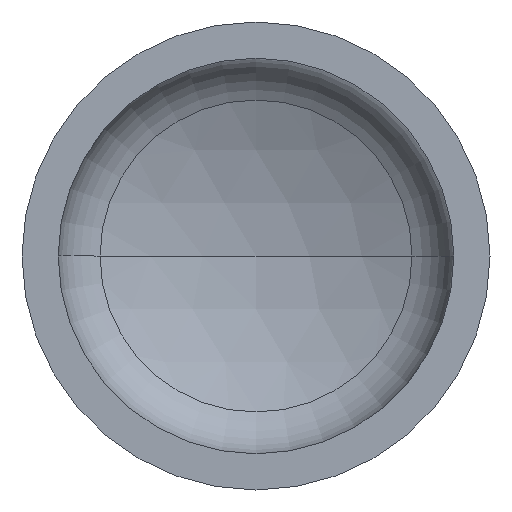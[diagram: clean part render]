
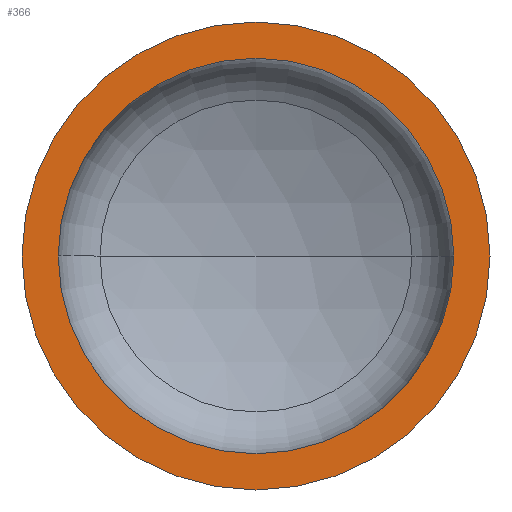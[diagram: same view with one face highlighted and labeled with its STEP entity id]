
A CAD part, front view. The second image highlights one B-rep face of the part: STEP entity #366.
In plain terms, the highlighted planar face has unit normal (0, -1, 0).
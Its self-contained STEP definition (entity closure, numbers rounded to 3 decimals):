
#1 = AXIS2_PLACEMENT_3D ( 'NONE', #327, #69, #136 ) ;
#4 = DIRECTION ( 'NONE',  ( 0., -1., 0. ) ) ;
#5 = CARTESIAN_POINT ( 'NONE',  ( 0., 0., 0. ) ) ;
#7 = VERTEX_POINT ( 'NONE', #200 ) ;
#11 = EDGE_CURVE ( 'NONE', #20, #7, #56, .T. ) ;
#20 = VERTEX_POINT ( 'NONE', #160 ) ;
#24 = ORIENTED_EDGE ( 'NONE', *, *, #153, .F. ) ;
#28 = CIRCLE ( 'NONE', #93, 750. ) ;
#29 = VERTEX_POINT ( 'NONE', #279 ) ;
#36 = CARTESIAN_POINT ( 'NONE',  ( 0., 0., 0. ) ) ;
#43 = ORIENTED_EDGE ( 'NONE', *, *, #177, .T. ) ;
#53 = AXIS2_PLACEMENT_3D ( 'NONE', #5, #4, #103 ) ;
#56 = CIRCLE ( 'NONE', #237, 750. ) ;
#69 = DIRECTION ( 'NONE',  ( 0., 1., 0. ) ) ;
#70 = DIRECTION ( 'NONE',  ( 0., -1., 0. ) ) ;
#73 = CIRCLE ( 'NONE', #352, 634. ) ;
#89 = CARTESIAN_POINT ( 'NONE',  ( -634., 0., 0. ) ) ;
#93 = AXIS2_PLACEMENT_3D ( 'NONE', #36, #70, #296 ) ;
#98 = CARTESIAN_POINT ( 'NONE',  ( 0., 0., 0. ) ) ;
#100 = ORIENTED_EDGE ( 'NONE', *, *, #11, .T. ) ;
#103 = DIRECTION ( 'NONE',  ( 1., 0., 0. ) ) ;
#136 = DIRECTION ( 'NONE',  ( -1., 0., 0. ) ) ;
#153 = EDGE_CURVE ( 'NONE', #29, #250, #347, .T. ) ;
#159 = ORIENTED_EDGE ( 'NONE', *, *, #359, .F. ) ;
#160 = CARTESIAN_POINT ( 'NONE',  ( 750., 0., 0. ) ) ;
#161 = DIRECTION ( 'NONE',  ( 1., 0., 0. ) ) ;
#173 = DIRECTION ( 'NONE',  ( 0., -1., 0. ) ) ;
#177 = EDGE_CURVE ( 'NONE', #7, #20, #28, .T. ) ;
#180 = DIRECTION ( 'NONE',  ( 0., -1., 0. ) ) ;
#181 = CARTESIAN_POINT ( 'NONE',  ( 0., 0., 0. ) ) ;
#200 = CARTESIAN_POINT ( 'NONE',  ( -750., 0., 0. ) ) ;
#210 = PLANE ( 'NONE',  #1 ) ;
#228 = FACE_OUTER_BOUND ( 'NONE', #405, .T. ) ;
#237 = AXIS2_PLACEMENT_3D ( 'NONE', #181, #180, #161 ) ;
#250 = VERTEX_POINT ( 'NONE', #89 ) ;
#279 = CARTESIAN_POINT ( 'NONE',  ( 634., 0., 0. ) ) ;
#282 = EDGE_LOOP ( 'NONE', ( #24, #159 ) ) ;
#296 = DIRECTION ( 'NONE',  ( 1., 0., 0. ) ) ;
#325 = DIRECTION ( 'NONE',  ( 1., 0., 0. ) ) ;
#327 = CARTESIAN_POINT ( 'NONE',  ( -750., 0., 0. ) ) ;
#347 = CIRCLE ( 'NONE', #53, 634. ) ;
#352 = AXIS2_PLACEMENT_3D ( 'NONE', #98, #173, #325 ) ;
#359 = EDGE_CURVE ( 'NONE', #250, #29, #73, .T. ) ;
#366 = ADVANCED_FACE ( 'NONE', ( #375, #228 ), #210, .F. ) ;
#375 = FACE_BOUND ( 'NONE', #282, .T. ) ;
#405 = EDGE_LOOP ( 'NONE', ( #100, #43 ) ) ;
